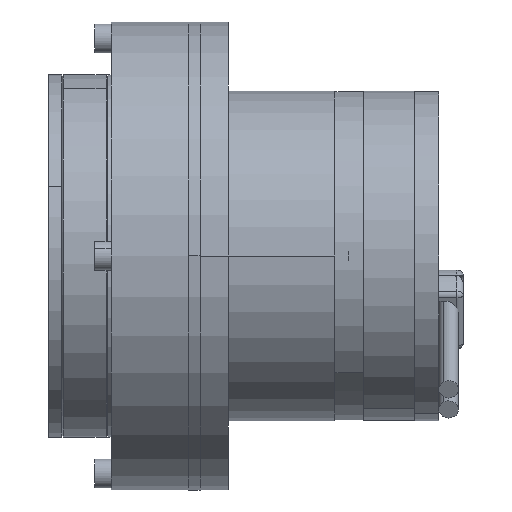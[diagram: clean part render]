
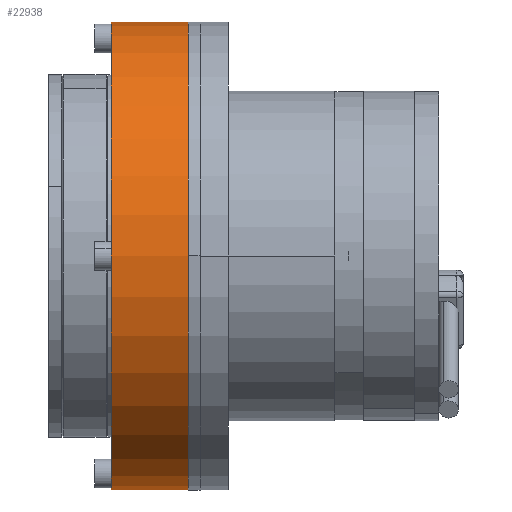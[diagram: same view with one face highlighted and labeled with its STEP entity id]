
A CAD part, left-side view. The second image highlights one B-rep face of the part: STEP entity #22938.
In plain terms, the highlighted cylindrical face has radius 71 mm (diameter 142 mm), a partial arc.
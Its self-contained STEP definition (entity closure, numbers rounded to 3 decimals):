
#1305 = DIRECTION ( 'NONE',  ( 0., -1., 0. ) ) ;
#1791 = CARTESIAN_POINT ( 'NONE',  ( 0., 0., 71. ) ) ;
#2690 = VECTOR ( 'NONE', #7988, 1000. ) ;
#3395 = LINE ( 'NONE', #13422, #2690 ) ;
#4770 = ORIENTED_EDGE ( 'NONE', *, *, #9179, .F. ) ;
#6273 = CARTESIAN_POINT ( 'NONE',  ( 0., 23.4, -71. ) ) ;
#6635 = DIRECTION ( 'NONE',  ( 0., 0., 1. ) ) ;
#7988 = DIRECTION ( 'NONE',  ( 0., -1., 0. ) ) ;
#8892 = AXIS2_PLACEMENT_3D ( 'NONE', #18544, #30578, #23007 ) ;
#9094 = CARTESIAN_POINT ( 'NONE',  ( 0., 23.4, 71. ) ) ;
#9179 = EDGE_CURVE ( 'NONE', #16744, #27684, #25733, .T. ) ;
#10221 = VERTEX_POINT ( 'NONE', #30050 ) ;
#10833 = CYLINDRICAL_SURFACE ( 'NONE', #15805, 71. ) ;
#13422 = CARTESIAN_POINT ( 'NONE',  ( 0., 23.4, -71. ) ) ;
#13626 = EDGE_CURVE ( 'NONE', #10221, #26882, #31780, .T. ) ;
#13652 = ORIENTED_EDGE ( 'NONE', *, *, #22334, .F. ) ;
#15805 = AXIS2_PLACEMENT_3D ( 'NONE', #23505, #1305, #21028 ) ;
#16300 = EDGE_LOOP ( 'NONE', ( #13652, #4770, #31087, #17537 ) ) ;
#16744 = VERTEX_POINT ( 'NONE', #6273 ) ;
#16818 = CARTESIAN_POINT ( 'NONE',  ( 0., 0., 0. ) ) ;
#16997 = DIRECTION ( 'NONE',  ( 0., -1., 0. ) ) ;
#17537 = ORIENTED_EDGE ( 'NONE', *, *, #13626, .T. ) ;
#18544 = CARTESIAN_POINT ( 'NONE',  ( 0., 23.4, 0. ) ) ;
#19979 = LINE ( 'NONE', #22608, #30466 ) ;
#20704 = FACE_OUTER_BOUND ( 'NONE', #16300, .T. ) ;
#21028 = DIRECTION ( 'NONE',  ( 0., 0., -1. ) ) ;
#21604 = DIRECTION ( 'NONE',  ( 0., 1., 0. ) ) ;
#22334 = EDGE_CURVE ( 'NONE', #27684, #26882, #19979, .T. ) ;
#22608 = CARTESIAN_POINT ( 'NONE',  ( 0., 23.4, 71. ) ) ;
#22938 = ADVANCED_FACE ( 'NONE', ( #20704 ), #10833, .T. ) ;
#23007 = DIRECTION ( 'NONE',  ( 0., 0., 1. ) ) ;
#23505 = CARTESIAN_POINT ( 'NONE',  ( 0., 23.4, 0. ) ) ;
#25733 = CIRCLE ( 'NONE', #8892, 71. ) ;
#26882 = VERTEX_POINT ( 'NONE', #1791 ) ;
#27684 = VERTEX_POINT ( 'NONE', #9094 ) ;
#28655 = AXIS2_PLACEMENT_3D ( 'NONE', #16818, #21604, #6635 ) ;
#30050 = CARTESIAN_POINT ( 'NONE',  ( 0., 0., -71. ) ) ;
#30125 = EDGE_CURVE ( 'NONE', #16744, #10221, #3395, .T. ) ;
#30466 = VECTOR ( 'NONE', #16997, 1000. ) ;
#30578 = DIRECTION ( 'NONE',  ( 0., 1., 0. ) ) ;
#31087 = ORIENTED_EDGE ( 'NONE', *, *, #30125, .T. ) ;
#31780 = CIRCLE ( 'NONE', #28655, 71. ) ;
